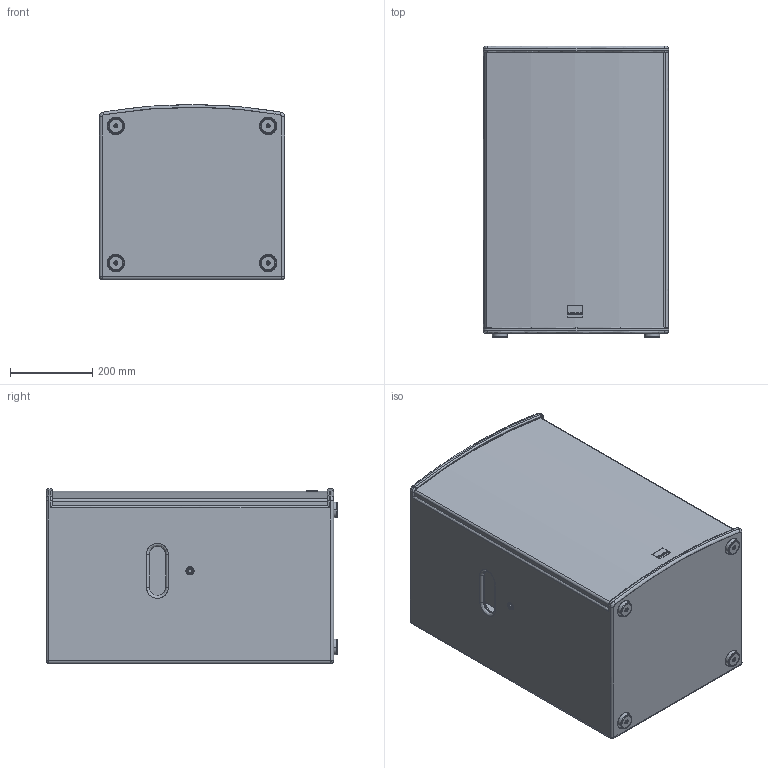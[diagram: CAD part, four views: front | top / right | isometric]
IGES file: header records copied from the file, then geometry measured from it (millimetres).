
Start section: SolidWorks IGES file using analytic representation for surfaces
Global section: file name: C:\Dokumente und Einstellungen\PC_Fabian\Desktop\3d_Dateien_Homepage\A-Serie\SEEBURG_A8-Sub.IGS; native system: SolidWorks 2009; preprocessor: SolidWorks 2009; author: PC_Fabian; date: 120928.102120; units: millimetre
Bounding box: 450 x 708 x 425 mm (x, y, z)
Surface area: 3597564.9 mm2 (no closed solid volume)
Topology: 0 solids, 0 shells, 507 faces, 6797 edges, 6795 vertices
Faces by surface type: revolution 287, bspline 220
